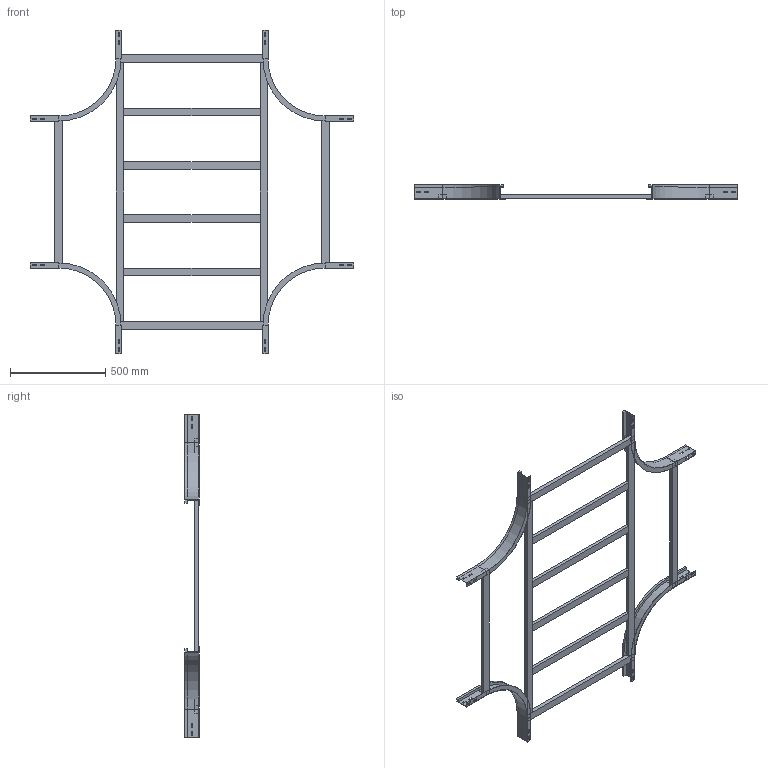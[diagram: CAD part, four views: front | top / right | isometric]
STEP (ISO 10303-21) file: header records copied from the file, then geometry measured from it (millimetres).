
FILE_DESCRIPTION (( 'STEP AP214' ), '1' );
FILE_NAME ('A2_17B3C800.step', '2025-02-21T15:58:49', ( '' ), ( '' ), 'SwSTEP 2.0', 'SolidWorks 2023', '' );
FILE_SCHEMA (( 'AUTOMOTIVE_DESIGN' ));
Length unit declared in the file: millimetre
Products named in the file (5): TRAVERSINO_800; A2_LONGH.INTERNO 90°_H75_R300; A2_17B3C800; A2_TRAVERSINO_LONG._R300+800; TRAVERSINO_INTERMEDIO_R300+800
Assembly tree (14 placements, depth 2):
  A2_17B3C800
    A2_LONGH.INTERNO 90°_H75_R300  x4
    TRAVERSINO_800  x4
    A2_TRAVERSINO_LONG._R300+800  x2
    TRAVERSINO_INTERMEDIO_R300+800  x4
Bounding box: 1700 x 75 x 1700 mm (x, y, z)
Volume: 8315038.1 mm3; surface area: 1810618.6 mm2
Topology: 14 solids, 14 shells, 292 faces, 728 edges, 464 vertices
Faces by surface type: plane 276, cylinder 16
Entity records: 2458 total; most frequent: CARTESIAN_POINT 401, DIRECTION 382, ORIENTED_EDGE 376, EDGE_CURVE 188, LINE 180, VECTOR 180, VERTEX_POINT 120, AXIS2_PLACEMENT_3D 101
